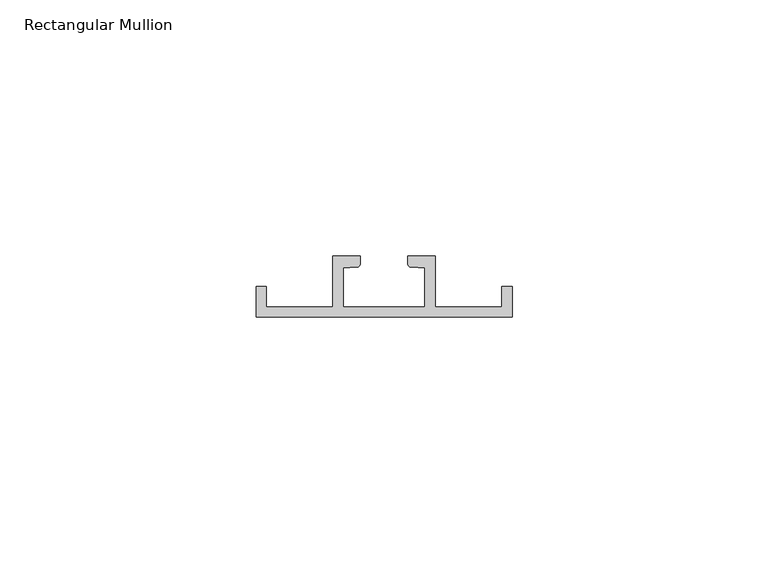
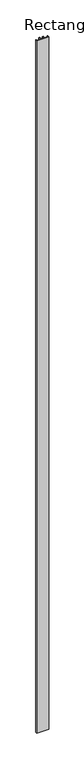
"""IFC4 building model written with IfcOpenShell, lengths in millimetres: member geometry, Rectangular Mullion : RSen_21_CWM_support profile - 50x12_duco projects."""

import ifcopenshell
import ifcopenshell.guid

model = None  # the IFC model being written
_history = None  # IfcOwnerHistory: only IFC2X3 demands one
_inside = {}  # id of a spatial element -> (the spatial element, [elements in it])
_under = {}  # id of a project, library or spatial element -> (it, [spatial elements below it])
_declared = {}  # id of a project -> (the project, [libraries it declares])
_typed = {}  # id of a type object -> (the type object, [elements of that type])
_made_of = {}  # id of a material, layer set ... -> (it, [elements and type objects made of it])


def new_model(schema):
    """Start an empty IFC model of exactly this schema.

    Asked for "IFC4X3", IfcOpenShell would pick the latest addendum, in which some entities
    have other attributes; the version numbers below select the first issue.
    IFC2X3 requires an IfcOwnerHistory on every rooted entity: one is made here for all.
    """
    global model, _history
    if schema == "IFC4X3":
        model = ifcopenshell.file(schema_version=(4, 3, 0, 0))
    else:
        model = ifcopenshell.file(schema=schema)
    _inside.clear()
    _under.clear()
    _declared.clear()
    _typed.clear()
    _made_of.clear()
    _history = None
    if model.schema == "IFC2X3":
        org = make("IfcOrganization", Name="unknown")
        user = make(
            "IfcPersonAndOrganization",
            ThePerson=make("IfcPerson", FamilyName="unknown"),
            TheOrganization=org,
        )
        app = make(
            "IfcApplication",
            ApplicationDeveloper=org,
            Version="unknown",
            ApplicationFullName="unknown",
            ApplicationIdentifier="unknown",
        )
        _history = make(
            "IfcOwnerHistory",
            OwningUser=user,
            OwningApplication=app,
            ChangeAction="ADDED",
            CreationDate=0,
        )
    return model


def make(cls, **values):
    """One entity of the class cls with the attributes given. An attribute that is None is left unset."""
    return model.create_entity(
        cls, **{name: value for name, value in values.items() if value is not None}
    )


def rooted(cls, **values):
    """An entity with a GlobalId (a new one), such as an element, a storey or a relation."""
    return make(cls, GlobalId=ifcopenshell.guid.new(), OwnerHistory=_history, **values)


def si_unit(unit_type, name, prefix=None):
    """IfcSIUnit, for example si_unit("LENGTHUNIT", "METRE", prefix="MILLI")."""
    return make("IfcSIUnit", UnitType=unit_type, Prefix=prefix, Name=name)


def assignment(units):
    """IfcUnitAssignment: the units of a project."""
    return None if units is None else make("IfcUnitAssignment", Units=units)


def point(xyz):
    """IfcCartesianPoint."""
    return None if xyz is None else make("IfcCartesianPoint", Coordinates=xyz)


def direction(xyz):
    """IfcDirection."""
    return None if xyz is None else make("IfcDirection", DirectionRatios=xyz)


def frame(location, z_axis=None, x_axis=None):
    """IfcAxis2Placement3D, a coordinate frame: its origin and axes. An axis left out is left unset."""
    return make(
        "IfcAxis2Placement3D",
        Location=point(location),
        Axis=direction(z_axis),
        RefDirection=direction(x_axis),
    )


def frame_2d(location, x_axis=None):
    """IfcAxis2Placement2D, a coordinate frame in the plane: its origin and x axis."""
    return make(
        "IfcAxis2Placement2D", Location=point(location), RefDirection=direction(x_axis)
    )


def origin():
    """The frame at (0, 0, 0) with its axes left unset."""
    return frame((0.0, 0.0, 0.0))


def place(relative_to, where):
    """IfcLocalPlacement: puts the frame where relative to a parent placement (None: the world)."""
    return make(
        "IfcLocalPlacement", PlacementRelTo=relative_to, RelativePlacement=where
    )


def context(
    kind, dimensions, precision=None, world=None, true_north=None, identifier=None
):
    """IfcGeometricRepresentationContext, for example the 3D "Model" context."""
    return make(
        "IfcGeometricRepresentationContext",
        ContextIdentifier=identifier,
        ContextType=kind,
        CoordinateSpaceDimension=dimensions,
        Precision=precision,
        WorldCoordinateSystem=world,
        TrueNorth=true_north,
    )


def project(units=None, contexts=None):
    """IfcProject with its units and contexts."""
    return rooted(
        "IfcProject",
        Name="project",
        RepresentationContexts=contexts,
        UnitsInContext=assignment(units),
    )


def spatial(cls, under=None, at=None, **own):
    """A site, building, storey or space (cls), placed at a placement, below another one or the project."""
    s = rooted(cls, ObjectPlacement=at, **own)
    if under is not None:
        _under.setdefault(under.id(), (under, []))[1].append(s)
    return s


def polyline(points):
    """IfcPolyline through the points."""
    return make("IfcPolyline", Points=[point(p) for p in points])


def circle_curve(where, radius):
    """IfcCircle in the frame where."""
    return make("IfcCircle", Position=where, Radius=radius)


def trimmed(basis, trim1, trim2, sense, master):
    """IfcTrimmedCurve: the piece of a basis curve between two trims."""
    return make(
        "IfcTrimmedCurve",
        BasisCurve=basis,
        Trim1=trim1,
        Trim2=trim2,
        SenseAgreement=sense,
        MasterRepresentation=master,
    )


def segment(curve, same_sense, transition):
    """IfcCompositeCurveSegment."""
    return make(
        "IfcCompositeCurveSegment",
        Transition=transition,
        SameSense=same_sense,
        ParentCurve=curve,
    )


def composite_curve(segments, self_intersect=None):
    """IfcCompositeCurve: segments joined end to end."""
    return make("IfcCompositeCurve", Segments=segments, SelfIntersect=self_intersect)


def outline(outer, holes=None, kind="AREA"):
    """IfcArbitraryClosedProfileDef: a profile drawn as a closed curve; with holes, ...WithVoids."""
    if holes is None:
        return make("IfcArbitraryClosedProfileDef", ProfileType=kind, OuterCurve=outer)
    return make(
        "IfcArbitraryProfileDefWithVoids",
        ProfileType=kind,
        OuterCurve=outer,
        InnerCurves=holes,
    )


def extrude(swept, where, along, depth):
    """IfcExtrudedAreaSolid: the profile swept, set in the frame where, extruded along a direction by depth."""
    return make(
        "IfcExtrudedAreaSolid",
        SweptArea=swept,
        Position=where,
        ExtrudedDirection=direction(along),
        Depth=depth,
    )


def shape(context_of_items, identifier, shape_type, items):
    """IfcShapeRepresentation: the items that make up one representation, for example the "Body"."""
    return make(
        "IfcShapeRepresentation",
        ContextOfItems=context_of_items,
        RepresentationIdentifier=identifier,
        RepresentationType=shape_type,
        Items=items,
    )


def source(mapping_origin, context_of_items, identifier, shape_type, items):
    """IfcRepresentationMap: a shape defined once, which mapped items show again and again."""
    return make(
        "IfcRepresentationMap",
        MappingOrigin=mapping_origin,
        MappedRepresentation=shape(context_of_items, identifier, shape_type, items),
    )


def transform(
    local_origin,
    x_axis=None,
    y_axis=None,
    z_axis=None,
    scale=None,
    scale2=None,
    scale3=None,
    uniform=True,
):
    """IfcCartesianTransformationOperator3D, or its non-uniform kind. x_axis, y_axis, z_axis: its Axis1, 2, 3."""
    if uniform:
        return make(
            "IfcCartesianTransformationOperator3D",
            Axis1=direction(x_axis),
            Axis2=direction(y_axis),
            LocalOrigin=point(local_origin),
            Scale=scale,
            Axis3=direction(z_axis),
        )
    return make(
        "IfcCartesianTransformationOperator3DnonUniform",
        Axis1=direction(x_axis),
        Axis2=direction(y_axis),
        LocalOrigin=point(local_origin),
        Scale=scale,
        Axis3=direction(z_axis),
        Scale2=scale2,
        Scale3=scale3,
    )


def mapped(mapping_source, mapping_target):
    """IfcMappedItem: shows the shape of a source again, moved by a transform."""
    return make(
        "IfcMappedItem", MappingSource=mapping_source, MappingTarget=mapping_target
    )


def made_of(thing, what):
    """Note that an element or type object is made of a material, layer set ...; save() writes the relation."""
    if what is not None:
        _made_of.setdefault(what.id(), (what, []))[1].append(thing)
    return thing


def element(
    cls,
    number,
    at=None,
    inside=None,
    cuts=None,
    type_object=None,
    material=None,
    context=None,
    identifier="Body",
    shape_type=None,
    held_by="IfcProductDefinitionShape",
    body=None,
    shapes=None,
    **own,
):
    """One element of the class cls, such as IfcWall. Its Tag is "e" and its number.

    at: its placement. inside: the storey or other place that contains it. cuts: it is an
    opening in that element (IfcRelVoidsElement). A single representation is given by context,
    identifier, shape_type and body (its items); several are given by shapes. held_by: the class
    of the entity that holds the representations. save() writes the other relations.
    """
    e = rooted(cls, Tag="e%d" % number, ObjectPlacement=at, **own)
    if body is not None:
        shapes = [shape(context, identifier, shape_type, body)]
    if shapes is not None:
        e.Representation = make(held_by, Representations=shapes)
    if inside is not None:
        _inside.setdefault(inside.id(), (inside, []))[1].append(e)
    if cuts is not None:
        rooted(
            "IfcRelVoidsElement", RelatingBuildingElement=cuts, RelatedOpeningElement=e
        )
    if type_object is not None:
        _typed.setdefault(type_object.id(), (type_object, []))[1].append(e)
    return made_of(e, material)


def aggregate(whole, parts):
    """IfcRelAggregates: a whole, such as a stair, and the parts it consists of."""
    return rooted("IfcRelAggregates", RelatingObject=whole, RelatedObjects=parts)


def save(model, path):
    """Write the relations noted so far, then the file.

    IfcRelAggregates (storeys below a building ...), IfcRelContainedInSpatialStructure (elements
    in a storey), IfcRelDefinesByType, IfcRelAssociatesMaterial and IfcRelDeclares: one each for
    every whole, place, type object, material and project.
    """
    for whole, parts in _under.values():
        aggregate(whole, parts)
    for where, things in _inside.values():
        rooted(
            "IfcRelContainedInSpatialStructure",
            RelatedElements=things,
            RelatingStructure=where,
        )
    for kind, things in _typed.values():
        rooted("IfcRelDefinesByType", RelatedObjects=things, RelatingType=kind)
    for what, things in _made_of.values():
        rooted("IfcRelAssociatesMaterial", RelatedObjects=things, RelatingMaterial=what)
    for by, libraries in _declared.values():
        rooted("IfcRelDeclares", RelatingContext=by, RelatedDefinitions=libraries)
    model.write(path)


def rectangular_mullion_f7d141da(model_context):
    return source(origin(), model_context, "Body", "SweptSolid", [
        extrude(outline(composite_curve([segment(polyline([(-4.65, 1.0), (-4.65, -0.5472394)]), True, "CONTINUOUS"), segment(trimmed(circle_curve(frame_2d((-5.35, -0.5472394)), 0.7), [point((-4.65, -0.5472394))], [point((-5.3011705, -1.2455343))], False, "CARTESIAN"), True, "CONTINUOUS"), segment(polyline([(-5.3011705, -1.2455343), (-8.0, -1.4342548), (-8.0, -9.0), (8.0, -9.0), (8.0, -1.4342548), (5.3011705, -1.2455343)]), True, "CONTINUOUS"), segment(trimmed(circle_curve(frame_2d((5.35, -0.5472394)), 0.7), [point((5.3011705, -1.2455343))], [point((4.65, -0.5472394))], False, "CARTESIAN"), True, "CONTINUOUS"), segment(polyline([(4.65, -0.5472394), (4.65, 1.0), (10.0, 1.0), (10.0, -9.0), (23.0, -9.0), (23.0, -5.0), (25.0, -5.0), (25.0, -11.0), (-25.0, -11.0), (-25.0, -5.0), (-23.0, -5.0), (-23.0, -9.0), (-10.0, -9.0), (-10.0, 1.0), (-4.65, 1.0)]), True, "CONTINUOUS")], self_intersect=False)), frame((0.0, 0.0, -3000.0), z_axis=(0.0, 0.0, 1.0), x_axis=(1.0, 0.0, 0.0)), (0.0, 0.0, 1.0), 3000.0),
    ])


if __name__ == "__main__":
    model = new_model("IFC4")
    model_context = context("Model", 3, world=origin())
    ifc_project = project(units=[si_unit("LENGTHUNIT", "METRE", prefix="MILLI")], contexts=[model_context])
    site = spatial("IfcSite", under=ifc_project)
    building = spatial("IfcBuilding", under=site)
    placement = place(None, origin())
    rectangular_mullion_shape = rectangular_mullion_f7d141da(model_context)
    element("IfcMember", 1, ObjectType="Rectangular Mullion : RSen_21_CWM_support profile - 50x12_duco projects", at=placement, inside=building, context=model_context, shape_type="MappedRepresentation", body=[
        mapped(rectangular_mullion_shape, transform((0.0, 0.0, 0.0), x_axis=(1.0, 0.0, 0.0), y_axis=(0.0, 1.0, 0.0), z_axis=(0.0, 0.0, 1.0))),
    ])
    save(model, "model.ifc")
